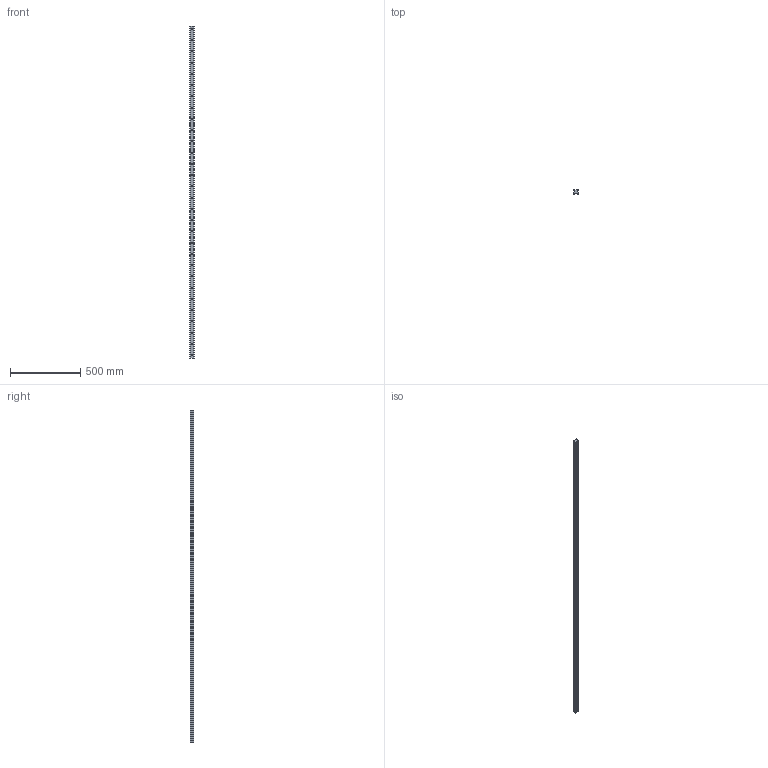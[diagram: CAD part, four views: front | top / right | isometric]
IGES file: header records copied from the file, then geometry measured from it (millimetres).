
Start section: SolidWorks IGES file using analytic representation for surfaces
Global section: file name: C:\Users\IanO\Desktop\Temp File\GENERAL\L1016_v2\L1016.RF35_v2\L1016.RF35_v2_20190612_IGES\L1016.RF35-2360.igs; native system: SolidWorks 2017; preprocessor: SolidWorks 2017; author: IanO; date: 190613.173018; units: millimetre
Bounding box: 34 x 26 x 2360 mm (x, y, z)
Surface area: 307799 mm2 (no closed solid volume)
Topology: 0 solids, 0 shells, 236 faces, 3768 edges, 3708 vertices
Faces by surface type: revolution 184, bspline 52
